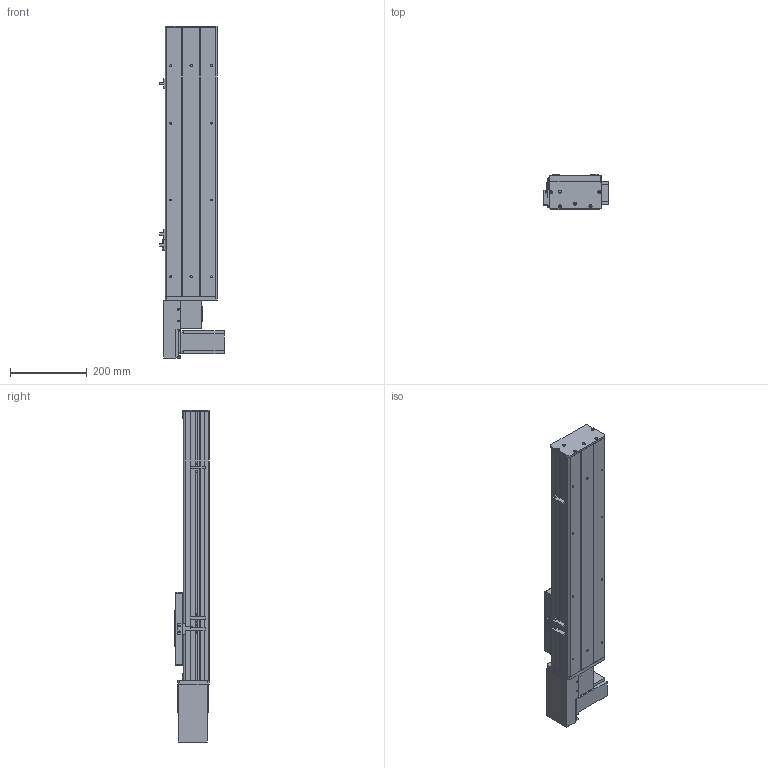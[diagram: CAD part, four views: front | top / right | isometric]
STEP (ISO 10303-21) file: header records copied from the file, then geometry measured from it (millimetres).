
FILE_DESCRIPTION (( 'STEP AP203' ), '1' );
FILE_NAME ('Y135CB-D90-S400-BR-P400W.STEP', '2020-02-18T02:11:19', ( '微软用户' ), ( '微软中国' ), 'SwSTEP 2.0', 'SolidWorks 2017', '' );
FILE_SCHEMA (( 'CONFIG_CONTROL_DESIGN' ));
Length unit declared in the file: millimetre
Products named in the file (18): Y100-135俋离換覜ん--; Y俋欶BR----; Y135C-陔俋离換覜結え-; 0B-埴倛裔啣; 0B-源倛裔啣; 0B-萇儂楊擘啣; 5C--俋欶; san松下电机400不带刹车----; C-雄赽釱--; Y135CB-耜裔; 5CB --掛极耜裔啣-; Y10B--々湍喘謫眊--666; 135CB---遴掛极.-; C-詩湍揤踡え-陔; Y135CB-D90-S400-BR-P400W; 35CB---喘謫眊楊擘啣; 135CB--詩湍-CE; Y10B-耜蚾蟀諉啣----
Assembly tree (21 placements, depth 2):
  Y135CB-D90-S400-BR-P400W
    Y135CB-耜裔
    135CB---遴掛极.-
    35CB---喘謫眊楊擘啣
    Y10B-耜蚾蟀諉啣----
    Y俋欶BR----
    0B-埴倛裔啣
    0B-源倛裔啣
    0B-萇儂楊擘啣
    san松下电机400不带刹车----
    5CB --掛极耜裔啣-  x2
    C-詩湍揤踡え-陔  x2
    135CB--詩湍-CE
    Y100-135俋离換覜ん--  x3
    Y135C-陔俋离換覜結え-
    5C--俋欶
    C-雄赽釱--
    Y10B--々湍喘謫眊--666
Bounding box: 167.5 x 91 x 864.5 mm (x, y, z)
Volume: 2829155.6 mm3; surface area: 1091812.1 mm2
Topology: 21 solids, 21 shells, 933 faces, 2473 edges, 1638 vertices
Faces by surface type: cylinder 459, plane 458, cone 16
Entity records: 28735 total; most frequent: DIRECTION 4769, CARTESIAN_POINT 4680, ORIENTED_EDGE 4422, EDGE_CURVE 2211, AXIS2_PLACEMENT_3D 1731, VERTEX_POINT 1466, VECTOR 1307, LINE 1307
